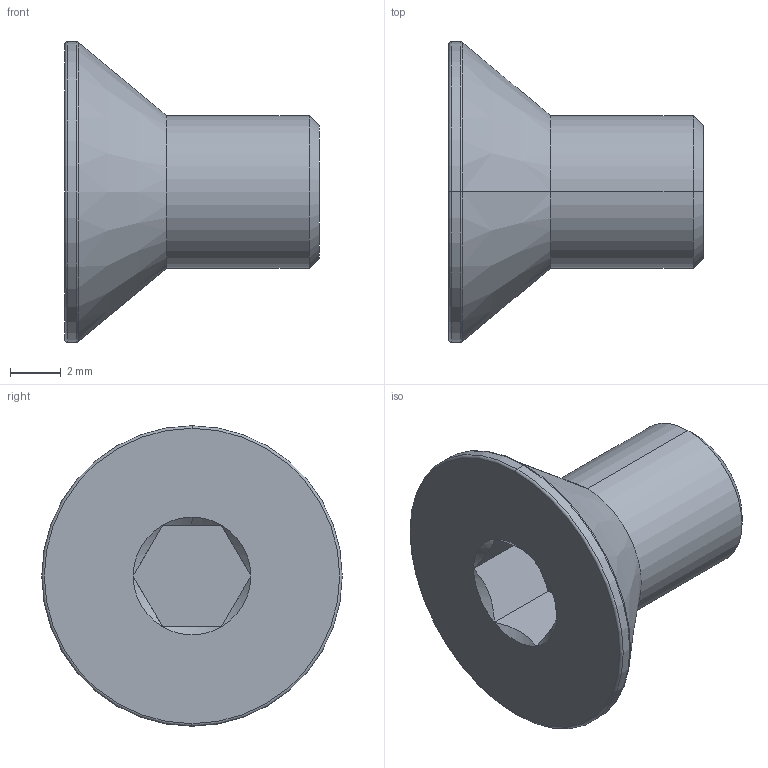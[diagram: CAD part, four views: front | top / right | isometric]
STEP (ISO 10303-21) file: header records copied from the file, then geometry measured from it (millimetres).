
FILE_DESCRIPTION (( 'STEP AP203' ), '1' );
FILE_NAME ('LGDB-304-M6x10.STEP', '2026-08-12T01:42:39', ( '' ), ( '' ), 'SwSTEP 2.0', 'SolidWorks 2020', '' );
FILE_SCHEMA (( 'CONFIG_CONTROL_DESIGN' ));
Length unit declared in the file: millimetre
Products named in the file (1): LGDB-304-M6x10
Bounding box: 10 x 11.8 x 11.8 mm (x, y, z)
Volume: 406.4 mm3; surface area: 430.1 mm2
Topology: 1 solids, 1 shells, 28 faces, 53 edges, 28 vertices
Faces by surface type: cone 11, plane 9, torus 4, cylinder 4
Entity records: 796 total; most frequent: CARTESIAN_POINT 157, DIRECTION 129, ORIENTED_EDGE 106, AXIS2_PLACEMENT_3D 54, EDGE_CURVE 53, EDGE_LOOP 29, VERTEX_POINT 28, ADVANCED_FACE 28
